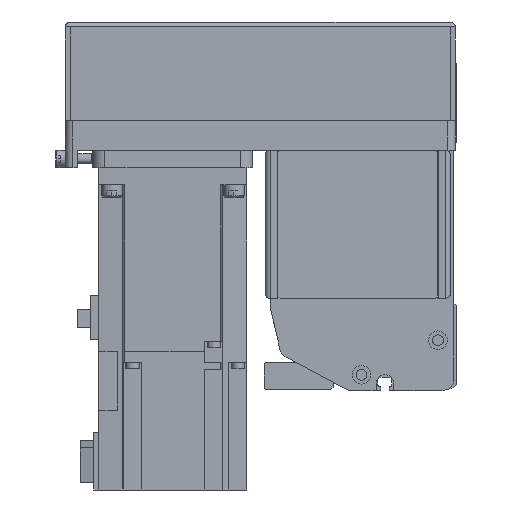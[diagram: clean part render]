
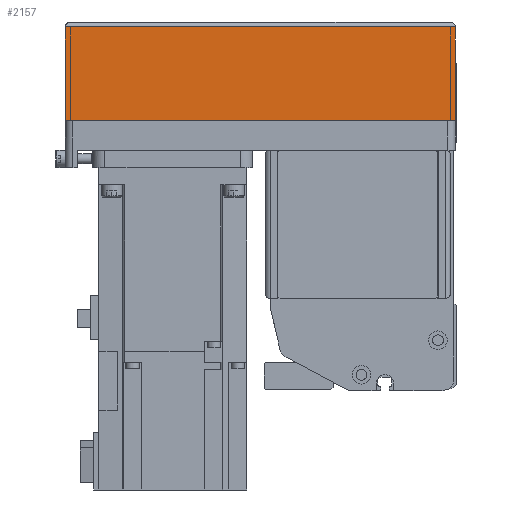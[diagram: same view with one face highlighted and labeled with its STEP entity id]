
A CAD part, left-side view. The second image highlights one B-rep face of the part: STEP entity #2157.
In plain terms, the highlighted planar face has unit normal (-1, 0, 0) as drawn and (0, 1, 0) by its records, which use the part's own axes.
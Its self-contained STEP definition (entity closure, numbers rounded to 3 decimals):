
#2157 = ADVANCED_FACE( '', ( #4775 ), #4776, .T. );
#4775 = FACE_OUTER_BOUND( '', #7896, .T. );
#4776 = PLANE( '', #7897 );
#7896 = EDGE_LOOP( '', ( #13938, #13939, #13940, #13941 ) );
#7897 = AXIS2_PLACEMENT_3D( '', #13942, #13943, #13944 );
#13938 = ORIENTED_EDGE( '', *, *, #19669, .F. );
#13939 = ORIENTED_EDGE( '', *, *, #19770, .F. );
#13940 = ORIENTED_EDGE( '', *, *, #20161, .T. );
#13941 = ORIENTED_EDGE( '', *, *, #19228, .T. );
#13942 = CARTESIAN_POINT( '', ( -158., 39., -50. ) );
#13943 = DIRECTION( '', ( 0., 1., 0. ) );
#13944 = DIRECTION( '', ( 0., 0., 1. ) );
#19228 = EDGE_CURVE( '', #23537, #23535, #23538, .T. );
#19669 = EDGE_CURVE( '', #24206, #23535, #24207, .T. );
#19770 = EDGE_CURVE( '', #23886, #24206, #24353, .T. );
#20161 = EDGE_CURVE( '', #23886, #23537, #24891, .T. );
#23535 = VERTEX_POINT( '', #29469 );
#23537 = VERTEX_POINT( '', #29472 );
#23538 = LINE( '', #29473, #29474 );
#23886 = VERTEX_POINT( '', #29968 );
#24206 = VERTEX_POINT( '', #30425 );
#24207 = LINE( '', #30426, #30427 );
#24353 = LINE( '', #30630, #30631 );
#24891 = LINE( '', #31454, #31455 );
#29469 = CARTESIAN_POINT( '', ( 0., 39., -12.1 ) );
#29472 = CARTESIAN_POINT( '', ( -158., 39., -12.1 ) );
#29473 = CARTESIAN_POINT( '', ( -158., 39., -12.1 ) );
#29474 = VECTOR( '', #34907, 1000. );
#29968 = CARTESIAN_POINT( '', ( -158., 39., -50. ) );
#30425 = CARTESIAN_POINT( '', ( 0., 39., -50. ) );
#30426 = CARTESIAN_POINT( '', ( 0., 39., -50. ) );
#30427 = VECTOR( '', #35475, 1000. );
#30630 = CARTESIAN_POINT( '', ( -158., 39., -50. ) );
#30631 = VECTOR( '', #35582, 1000. );
#31454 = CARTESIAN_POINT( '', ( -158., 39., -50. ) );
#31455 = VECTOR( '', #36017, 1000. );
#34907 = DIRECTION( '', ( 1., 0., 0. ) );
#35475 = DIRECTION( '', ( 0., 0., 1. ) );
#35582 = DIRECTION( '', ( 1., 0., 0. ) );
#36017 = DIRECTION( '', ( 0., 0., 1. ) );
